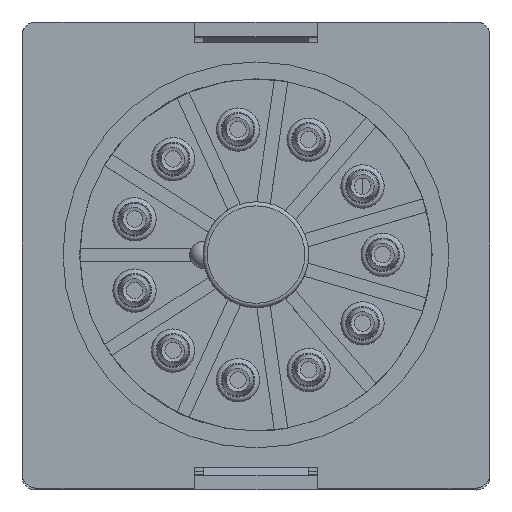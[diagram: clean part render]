
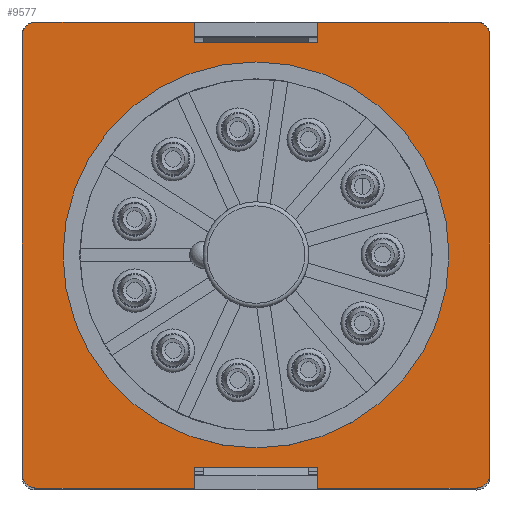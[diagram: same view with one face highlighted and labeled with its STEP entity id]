
A CAD part, top view. The second image highlights one B-rep face of the part: STEP entity #9577.
In plain terms, the highlighted planar face has unit normal (0, 0, 1).
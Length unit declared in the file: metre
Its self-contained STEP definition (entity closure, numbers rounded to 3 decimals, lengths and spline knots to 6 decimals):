
#6659=CARTESIAN_POINT('',(-0.005305,-0.033881,-0.002328));
#6660=DIRECTION('',(0.,0.,1.));
#6661=DIRECTION('',(1.,0.,0.));
#6662=AXIS2_PLACEMENT_3D('',#6659,#6660,#6661);
#6663=PLANE('',#6662);
#8765=CARTESIAN_POINT('',(-0.000755,0.021368,-0.002328));
#8766=VERTEX_POINT('',#8765);
#8769=CARTESIAN_POINT('',(-0.005305,0.021368,-0.002328));
#8770=DIRECTION('',(1.,0.,0.));
#8771=VECTOR('',#8770,1.);
#8772=LINE('',#8769,#8771);
#8773=CARTESIAN_POINT('',(0.010945,0.021368,-0.002328));
#8774=VERTEX_POINT('',#8773);
#8775=EDGE_CURVE('',#8766,#8774,#8772,.T.);
#8809=CARTESIAN_POINT('',(0.010945,0.020368,-0.002328));
#8810=DIRECTION('',(0.,0.,1.));
#8811=DIRECTION('',(1.,0.,0.));
#8812=AXIS2_PLACEMENT_3D('',#8809,#8810,#8811);
#8813=CIRCLE('',#8812,0.001);
#8814=CARTESIAN_POINT('',(0.011945,0.020368,-0.002328));
#8815=VERTEX_POINT('',#8814);
#8816=EDGE_CURVE('',#8815,#8774,#8813,.T.);
#8849=CARTESIAN_POINT('',(0.011945,-0.033881,-0.002328));
#8850=DIRECTION('',(0.,-1.,0.));
#8851=VECTOR('',#8850,1.);
#8852=LINE('',#8849,#8851);
#8853=CARTESIAN_POINT('',(0.011945,-0.012044,-0.002328));
#8854=VERTEX_POINT('',#8853);
#8855=EDGE_CURVE('',#8815,#8854,#8852,.T.);
#8889=CARTESIAN_POINT('',(0.010945,-0.012044,-0.002328));
#8890=DIRECTION('',(0.,0.,1.));
#8891=DIRECTION('',(1.,0.,0.));
#8892=AXIS2_PLACEMENT_3D('',#8889,#8890,#8891);
#8893=CIRCLE('',#8892,0.001);
#8894=CARTESIAN_POINT('',(0.010945,-0.013044,-0.002328));
#8895=VERTEX_POINT('',#8894);
#8896=EDGE_CURVE('',#8895,#8854,#8893,.T.);
#8929=CARTESIAN_POINT('',(-0.005305,-0.013044,-0.002328));
#8930=DIRECTION('',(1.,0.,0.));
#8931=VECTOR('',#8930,1.);
#8932=LINE('',#8929,#8931);
#8933=CARTESIAN_POINT('',(-0.000755,-0.013044,-0.002328));
#8934=VERTEX_POINT('',#8933);
#8935=EDGE_CURVE('',#8934,#8895,#8932,.T.);
#8968=CARTESIAN_POINT('',(-0.000755,-0.033881,-0.002328));
#8969=DIRECTION('',(0.,1.,0.));
#8970=VECTOR('',#8969,1.);
#8971=LINE('',#8968,#8970);
#8972=CARTESIAN_POINT('',(-0.000755,-0.011532,-0.002328));
#8973=VERTEX_POINT('',#8972);
#8974=EDGE_CURVE('',#8934,#8973,#8971,.T.);
#9002=CARTESIAN_POINT('',(-0.009855,-0.011532,-0.002328));
#9003=VERTEX_POINT('',#9002);
#9087=CARTESIAN_POINT('',(-0.005305,-0.011532,-0.002328));
#9088=DIRECTION('',(-1.,0.,0.));
#9089=VECTOR('',#9088,1.);
#9090=LINE('',#9087,#9089);
#9091=EDGE_CURVE('',#8973,#9003,#9090,.T.);
#9129=CARTESIAN_POINT('',(-0.009855,-0.033881,-0.002328));
#9130=DIRECTION('',(0.,1.,0.));
#9131=VECTOR('',#9130,1.);
#9132=LINE('',#9129,#9131);
#9133=CARTESIAN_POINT('',(-0.009855,-0.013044,-0.002328));
#9134=VERTEX_POINT('',#9133);
#9135=EDGE_CURVE('',#9134,#9003,#9132,.T.);
#9168=CARTESIAN_POINT('',(-0.005305,-0.013044,-0.002328));
#9169=DIRECTION('',(1.,0.,0.));
#9170=VECTOR('',#9169,1.);
#9171=LINE('',#9168,#9170);
#9172=CARTESIAN_POINT('',(-0.021555,-0.013044,-0.002328));
#9173=VERTEX_POINT('',#9172);
#9174=EDGE_CURVE('',#9173,#9134,#9171,.T.);
#9208=CARTESIAN_POINT('',(-0.021555,-0.012044,-0.002328));
#9209=DIRECTION('',(0.,0.,1.));
#9210=DIRECTION('',(1.,0.,0.));
#9211=AXIS2_PLACEMENT_3D('',#9208,#9209,#9210);
#9212=CIRCLE('',#9211,0.001);
#9213=CARTESIAN_POINT('',(-0.022555,-0.012044,-0.002328));
#9214=VERTEX_POINT('',#9213);
#9215=EDGE_CURVE('',#9214,#9173,#9212,.T.);
#9248=CARTESIAN_POINT('',(-0.022555,-0.033881,-0.002328));
#9249=DIRECTION('',(0.,-1.,0.));
#9250=VECTOR('',#9249,1.);
#9251=LINE('',#9248,#9250);
#9252=CARTESIAN_POINT('',(-0.022555,0.020368,-0.002328));
#9253=VERTEX_POINT('',#9252);
#9254=EDGE_CURVE('',#9253,#9214,#9251,.T.);
#9288=CARTESIAN_POINT('',(-0.021555,0.020368,-0.002328));
#9289=DIRECTION('',(0.,0.,1.));
#9290=DIRECTION('',(1.,0.,0.));
#9291=AXIS2_PLACEMENT_3D('',#9288,#9289,#9290);
#9292=CIRCLE('',#9291,0.001);
#9293=CARTESIAN_POINT('',(-0.021555,0.021368,-0.002328));
#9294=VERTEX_POINT('',#9293);
#9295=EDGE_CURVE('',#9294,#9253,#9292,.T.);
#9328=CARTESIAN_POINT('',(-0.005305,0.021368,-0.002328));
#9329=DIRECTION('',(1.,0.,0.));
#9330=VECTOR('',#9329,1.);
#9331=LINE('',#9328,#9330);
#9332=CARTESIAN_POINT('',(-0.009855,0.021368,-0.002328));
#9333=VERTEX_POINT('',#9332);
#9334=EDGE_CURVE('',#9294,#9333,#9331,.T.);
#9367=CARTESIAN_POINT('',(-0.009855,-0.033881,-0.002328));
#9368=DIRECTION('',(0.,-1.,0.));
#9369=VECTOR('',#9368,1.);
#9370=LINE('',#9367,#9369);
#9371=CARTESIAN_POINT('',(-0.009855,0.019868,-0.002328));
#9372=VERTEX_POINT('',#9371);
#9373=EDGE_CURVE('',#9333,#9372,#9370,.T.);
#9401=CARTESIAN_POINT('',(-0.000755,0.019868,-0.002328));
#9402=VERTEX_POINT('',#9401);
#9490=CARTESIAN_POINT('',(-0.005305,0.019868,-0.002328));
#9491=DIRECTION('',(-1.,0.,0.));
#9492=VECTOR('',#9491,1.);
#9493=LINE('',#9490,#9492);
#9494=EDGE_CURVE('',#9402,#9372,#9493,.T.);
#9530=CARTESIAN_POINT('',(-0.000755,-0.033881,-0.002328));
#9531=DIRECTION('',(0.,-1.,0.));
#9532=VECTOR('',#9531,1.);
#9533=LINE('',#9530,#9532);
#9534=EDGE_CURVE('',#8766,#9402,#9533,.T.);
#9548=ORIENTED_EDGE('',*,*,#9534,.T.);
#9549=ORIENTED_EDGE('',*,*,#9494,.T.);
#9550=ORIENTED_EDGE('',*,*,#9373,.F.);
#9551=ORIENTED_EDGE('',*,*,#9334,.F.);
#9552=ORIENTED_EDGE('',*,*,#9295,.T.);
#9553=ORIENTED_EDGE('',*,*,#9254,.T.);
#9554=ORIENTED_EDGE('',*,*,#9215,.T.);
#9555=ORIENTED_EDGE('',*,*,#9174,.T.);
#9556=ORIENTED_EDGE('',*,*,#9135,.T.);
#9557=ORIENTED_EDGE('',*,*,#9091,.F.);
#9558=ORIENTED_EDGE('',*,*,#8974,.F.);
#9559=ORIENTED_EDGE('',*,*,#8935,.T.);
#9560=ORIENTED_EDGE('',*,*,#8896,.T.);
#9561=ORIENTED_EDGE('',*,*,#8855,.F.);
#9562=ORIENTED_EDGE('',*,*,#8816,.T.);
#9563=ORIENTED_EDGE('',*,*,#8775,.F.);
#9564=EDGE_LOOP('',(#9548,#9549,#9550,#9551,#9552,#9553,#9554,#9555,#9556,#9557,#9558,#9559,#9560,#9561,#9562,#9563));
#9565=FACE_BOUND('',#9564,.T.);
#9566=CARTESIAN_POINT('',(-0.005305,0.004168,-0.002328));
#9567=DIRECTION('',(0.,0.,1.));
#9568=DIRECTION('',(1.,0.,0.));
#9569=AXIS2_PLACEMENT_3D('',#9566,#9567,#9568);
#9570=CIRCLE('',#9569,0.01425);
#9571=CARTESIAN_POINT('',(-0.019555,0.004168,-0.002328));
#9572=VERTEX_POINT('',#9571);
#9573=EDGE_CURVE('',#9572,#9572,#9570,.T.);
#9574=ORIENTED_EDGE('',*,*,#9573,.F.);
#9575=EDGE_LOOP('',(#9574));
#9576=FACE_BOUND('',#9575,.T.);
#9577=ADVANCED_FACE('',(#9565,#9576),#6663,.T.);
